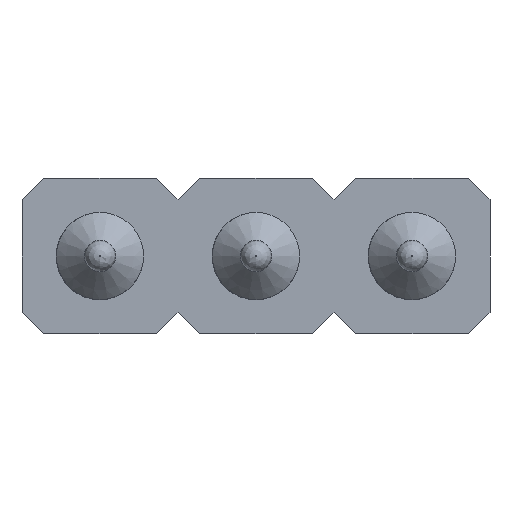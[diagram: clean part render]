
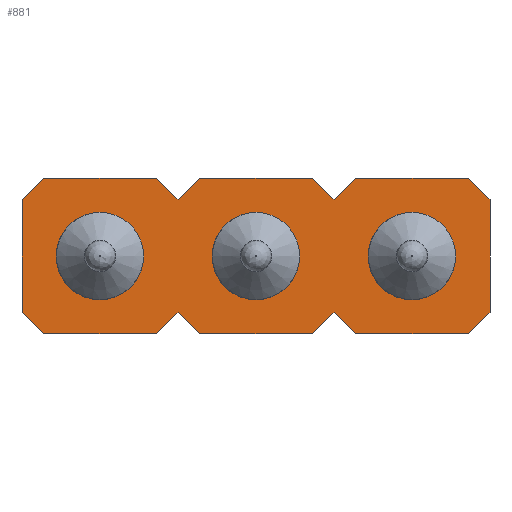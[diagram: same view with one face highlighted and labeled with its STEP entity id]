
A CAD part, front view. The second image highlights one B-rep face of the part: STEP entity #881.
In plain terms, the highlighted planar face has unit normal (0, -1, 0).
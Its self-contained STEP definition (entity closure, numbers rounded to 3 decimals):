
#37=FACE_BOUND('',#175,.T.);
#38=FACE_BOUND('',#176,.T.);
#39=FACE_BOUND('',#177,.T.);
#52=PLANE('',#996);
#116=FACE_OUTER_BOUND('',#174,.T.);
#174=EDGE_LOOP('',(#704,#705,#706,#707,#708,#709,#710,#711,#712,#713,#714,
#715,#716,#717,#718,#719,#720,#721,#722,#723));
#175=EDGE_LOOP('',(#724));
#176=EDGE_LOOP('',(#725));
#177=EDGE_LOOP('',(#726));
#223=LINE('',#1497,#304);
#224=LINE('',#1499,#305);
#225=LINE('',#1501,#306);
#226=LINE('',#1503,#307);
#227=LINE('',#1505,#308);
#228=LINE('',#1507,#309);
#229=LINE('',#1509,#310);
#230=LINE('',#1511,#311);
#231=LINE('',#1513,#312);
#232=LINE('',#1515,#313);
#233=LINE('',#1517,#314);
#234=LINE('',#1519,#315);
#235=LINE('',#1521,#316);
#236=LINE('',#1523,#317);
#237=LINE('',#1525,#318);
#238=LINE('',#1527,#319);
#239=LINE('',#1529,#320);
#240=LINE('',#1531,#321);
#241=LINE('',#1533,#322);
#242=LINE('',#1534,#323);
#304=VECTOR('',#1175,10.);
#305=VECTOR('',#1176,10.);
#306=VECTOR('',#1177,10.);
#307=VECTOR('',#1178,10.);
#308=VECTOR('',#1179,10.);
#309=VECTOR('',#1180,10.);
#310=VECTOR('',#1181,10.);
#311=VECTOR('',#1182,10.);
#312=VECTOR('',#1183,10.);
#313=VECTOR('',#1184,10.);
#314=VECTOR('',#1185,10.);
#315=VECTOR('',#1186,10.);
#316=VECTOR('',#1187,10.);
#317=VECTOR('',#1188,10.);
#318=VECTOR('',#1189,10.);
#319=VECTOR('',#1190,10.);
#320=VECTOR('',#1191,10.);
#321=VECTOR('',#1192,10.);
#322=VECTOR('',#1193,10.);
#323=VECTOR('',#1194,10.);
#400=CIRCLE('',#997,0.71);
#401=CIRCLE('',#998,0.71);
#402=CIRCLE('',#999,0.71);
#436=VERTEX_POINT('',#1495);
#437=VERTEX_POINT('',#1496);
#438=VERTEX_POINT('',#1498);
#439=VERTEX_POINT('',#1500);
#440=VERTEX_POINT('',#1502);
#441=VERTEX_POINT('',#1504);
#442=VERTEX_POINT('',#1506);
#443=VERTEX_POINT('',#1508);
#444=VERTEX_POINT('',#1510);
#445=VERTEX_POINT('',#1512);
#446=VERTEX_POINT('',#1514);
#447=VERTEX_POINT('',#1516);
#448=VERTEX_POINT('',#1518);
#449=VERTEX_POINT('',#1520);
#450=VERTEX_POINT('',#1522);
#451=VERTEX_POINT('',#1524);
#452=VERTEX_POINT('',#1526);
#453=VERTEX_POINT('',#1528);
#454=VERTEX_POINT('',#1530);
#455=VERTEX_POINT('',#1532);
#456=VERTEX_POINT('',#1535);
#457=VERTEX_POINT('',#1537);
#458=VERTEX_POINT('',#1539);
#533=EDGE_CURVE('',#436,#437,#223,.T.);
#534=EDGE_CURVE('',#436,#438,#224,.T.);
#535=EDGE_CURVE('',#439,#438,#225,.T.);
#536=EDGE_CURVE('',#440,#439,#226,.T.);
#537=EDGE_CURVE('',#440,#441,#227,.T.);
#538=EDGE_CURVE('',#442,#441,#228,.T.);
#539=EDGE_CURVE('',#443,#442,#229,.T.);
#540=EDGE_CURVE('',#443,#444,#230,.T.);
#541=EDGE_CURVE('',#445,#444,#231,.T.);
#542=EDGE_CURVE('',#446,#445,#232,.T.);
#543=EDGE_CURVE('',#446,#447,#233,.T.);
#544=EDGE_CURVE('',#447,#448,#234,.T.);
#545=EDGE_CURVE('',#449,#448,#235,.T.);
#546=EDGE_CURVE('',#450,#449,#236,.T.);
#547=EDGE_CURVE('',#450,#451,#237,.T.);
#548=EDGE_CURVE('',#452,#451,#238,.T.);
#549=EDGE_CURVE('',#453,#452,#239,.T.);
#550=EDGE_CURVE('',#453,#454,#240,.T.);
#551=EDGE_CURVE('',#455,#454,#241,.T.);
#552=EDGE_CURVE('',#437,#455,#242,.T.);
#553=EDGE_CURVE('',#456,#456,#400,.T.);
#554=EDGE_CURVE('',#457,#457,#401,.T.);
#555=EDGE_CURVE('',#458,#458,#402,.T.);
#704=ORIENTED_EDGE('',*,*,#533,.F.);
#705=ORIENTED_EDGE('',*,*,#534,.T.);
#706=ORIENTED_EDGE('',*,*,#535,.F.);
#707=ORIENTED_EDGE('',*,*,#536,.F.);
#708=ORIENTED_EDGE('',*,*,#537,.T.);
#709=ORIENTED_EDGE('',*,*,#538,.F.);
#710=ORIENTED_EDGE('',*,*,#539,.F.);
#711=ORIENTED_EDGE('',*,*,#540,.T.);
#712=ORIENTED_EDGE('',*,*,#541,.F.);
#713=ORIENTED_EDGE('',*,*,#542,.F.);
#714=ORIENTED_EDGE('',*,*,#543,.T.);
#715=ORIENTED_EDGE('',*,*,#544,.T.);
#716=ORIENTED_EDGE('',*,*,#545,.F.);
#717=ORIENTED_EDGE('',*,*,#546,.F.);
#718=ORIENTED_EDGE('',*,*,#547,.T.);
#719=ORIENTED_EDGE('',*,*,#548,.F.);
#720=ORIENTED_EDGE('',*,*,#549,.F.);
#721=ORIENTED_EDGE('',*,*,#550,.T.);
#722=ORIENTED_EDGE('',*,*,#551,.F.);
#723=ORIENTED_EDGE('',*,*,#552,.F.);
#724=ORIENTED_EDGE('',*,*,#553,.T.);
#725=ORIENTED_EDGE('',*,*,#554,.T.);
#726=ORIENTED_EDGE('',*,*,#555,.T.);
#881=ADVANCED_FACE('',(#116,#37,#38,#39),#52,.F.);
#996=AXIS2_PLACEMENT_3D('',#1494,#1173,#1174);
#997=AXIS2_PLACEMENT_3D('',#1536,#1195,#1196);
#998=AXIS2_PLACEMENT_3D('',#1538,#1197,#1198);
#999=AXIS2_PLACEMENT_3D('',#1540,#1199,#1200);
#1173=DIRECTION('center_axis',(0.,1.,0.));
#1174=DIRECTION('ref_axis',(1.,0.,0.));
#1175=DIRECTION('',(0.,0.,-1.));
#1176=DIRECTION('',(-0.707,0.,0.707));
#1177=DIRECTION('',(1.,0.,0.));
#1178=DIRECTION('',(0.707,0.,0.707));
#1179=DIRECTION('',(-0.707,0.,0.707));
#1180=DIRECTION('',(1.,0.,0.));
#1181=DIRECTION('',(0.707,0.,0.707));
#1182=DIRECTION('',(-0.707,0.,0.707));
#1183=DIRECTION('',(1.,0.,0.));
#1184=DIRECTION('',(0.707,0.,0.707));
#1185=DIRECTION('',(0.,0.,-1.));
#1186=DIRECTION('',(0.707,0.,-0.707));
#1187=DIRECTION('',(-1.,0.,0.));
#1188=DIRECTION('',(-0.707,0.,-0.707));
#1189=DIRECTION('',(0.707,0.,-0.707));
#1190=DIRECTION('',(-1.,0.,0.));
#1191=DIRECTION('',(-0.707,0.,-0.707));
#1192=DIRECTION('',(0.707,0.,-0.707));
#1193=DIRECTION('',(-1.,0.,0.));
#1194=DIRECTION('',(-0.707,0.,-0.707));
#1195=DIRECTION('center_axis',(0.,1.,0.));
#1196=DIRECTION('ref_axis',(-1.,0.,0.));
#1197=DIRECTION('center_axis',(0.,1.,0.));
#1198=DIRECTION('ref_axis',(-1.,0.,0.));
#1199=DIRECTION('center_axis',(0.,1.,0.));
#1200=DIRECTION('ref_axis',(-1.,0.,0.));
#1494=CARTESIAN_POINT('Origin',(22.864,0.,0.002));
#1495=CARTESIAN_POINT('',(6.354,0.,0.916));
#1496=CARTESIAN_POINT('',(6.354,0.,-0.911));
#1497=CARTESIAN_POINT('',(6.354,0.,0.002));
#1498=CARTESIAN_POINT('',(5.997,0.,1.272));
#1499=CARTESIAN_POINT('',(6.354,0.,0.916));
#1500=CARTESIAN_POINT('',(4.17,0.,1.272));
#1501=CARTESIAN_POINT('',(4.17,0.,1.272));
#1502=CARTESIAN_POINT('',(3.814,0.,0.916));
#1503=CARTESIAN_POINT('',(3.814,0.,0.916));
#1504=CARTESIAN_POINT('',(3.457,0.,1.272));
#1505=CARTESIAN_POINT('',(3.814,0.,0.916));
#1506=CARTESIAN_POINT('',(1.63,0.,1.272));
#1507=CARTESIAN_POINT('',(1.63,0.,1.272));
#1508=CARTESIAN_POINT('',(1.274,0.,0.916));
#1509=CARTESIAN_POINT('',(1.274,0.,0.916));
#1510=CARTESIAN_POINT('',(0.917,0.,1.272));
#1511=CARTESIAN_POINT('',(1.274,0.,0.916));
#1512=CARTESIAN_POINT('',(-0.91,0.,1.272));
#1513=CARTESIAN_POINT('',(-0.91,0.,1.272));
#1514=CARTESIAN_POINT('',(-1.266,0.,0.916));
#1515=CARTESIAN_POINT('',(-1.266,0.,0.916));
#1516=CARTESIAN_POINT('',(-1.266,0.,-0.911));
#1517=CARTESIAN_POINT('',(-1.266,0.,0.002));
#1518=CARTESIAN_POINT('',(-0.91,0.,-1.268));
#1519=CARTESIAN_POINT('',(-1.266,0.,-0.911));
#1520=CARTESIAN_POINT('',(0.917,0.,-1.268));
#1521=CARTESIAN_POINT('',(0.917,0.,-1.268));
#1522=CARTESIAN_POINT('',(1.274,0.,-0.911));
#1523=CARTESIAN_POINT('',(1.274,0.,-0.911));
#1524=CARTESIAN_POINT('',(1.63,0.,-1.268));
#1525=CARTESIAN_POINT('',(1.274,0.,-0.911));
#1526=CARTESIAN_POINT('',(3.457,0.,-1.268));
#1527=CARTESIAN_POINT('',(3.457,0.,-1.268));
#1528=CARTESIAN_POINT('',(3.814,0.,-0.911));
#1529=CARTESIAN_POINT('',(3.814,0.,-0.911));
#1530=CARTESIAN_POINT('',(4.17,0.,-1.268));
#1531=CARTESIAN_POINT('',(3.814,0.,-0.911));
#1532=CARTESIAN_POINT('',(5.997,0.,-1.268));
#1533=CARTESIAN_POINT('',(5.997,0.,-1.268));
#1534=CARTESIAN_POINT('',(6.354,0.,-0.911));
#1535=CARTESIAN_POINT('',(3.25,0.,0.));
#1536=CARTESIAN_POINT('Origin',(2.54,0.,0.));
#1537=CARTESIAN_POINT('',(0.71,0.,0.));
#1538=CARTESIAN_POINT('Origin',(0.,0.,0.));
#1539=CARTESIAN_POINT('',(5.79,0.,0.));
#1540=CARTESIAN_POINT('Origin',(5.08,0.,0.));
